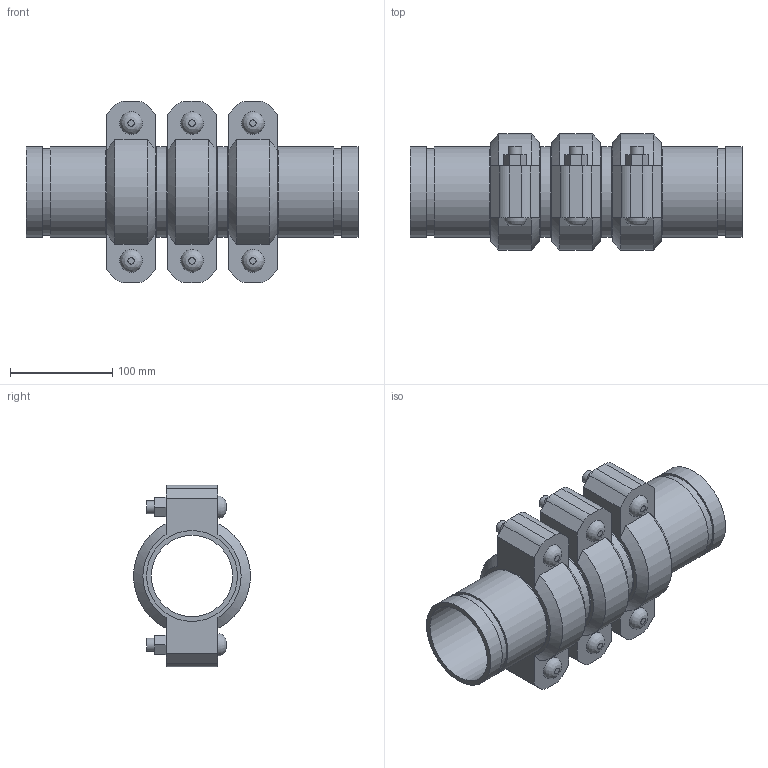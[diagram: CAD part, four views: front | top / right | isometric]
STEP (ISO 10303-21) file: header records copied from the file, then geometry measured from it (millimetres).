
FILE_DESCRIPTION(/* description */ ('VIC SS EXPANSION JOINT 3 COUPLINGS NEUTRAL STYLE 155P (OGS) (POTABLE WATER) ','CAx-IF Rec.Pracs.---Representation and Presentation of Product Manufacturing Information (PMI)---4.0---2014-10-13'),/* implementation_level */ '2;1');
FILE_NAME(/* name */ 'C:\Users\kkamble\AppData\Roaming\Autodesk\ApplicationPlugins\Victaulic.Temp\A227\Victaulic_SS_Expansion Joint_Neutral_3 Couplings_Style 155P (OGS)-Potable Water_3 Coup_Neut_3 (80).stp',/* time_stamp */ '2021-07-16T16:32:15+05:00',/* author */ ('kkamble'),/* organization */ ('Victaulic'),/* preprocessor_version */ 'ST-DEVELOPER v17.2',/* originating_system */ 'Autodesk Inventor 2019',/* authorisation */ '');
FILE_SCHEMA (('AP242_MANAGED_MODEL_BASED_3D_ENGINEERING_MIM_LF { 1 0 10303 442 1 1 4 }'));
Length unit declared in the file: inch
Products named in the file (4): 155P-03.0; Nipple-03.0; Nipple-03.0_1; 075-03.0
Assembly tree (7 placements, depth 2):
  155P-03.0
    Nipple-03.0  x2
    Nipple-03.0_1  x2
    075-03.0  x3
Bounding box: 324.61 x 113.88 x 177.8 mm (x, y, z)
Volume: 1366863.8 mm3; surface area: 368846 mm2
Topology: 7 solids, 13 shells, 219 faces, 519 edges, 366 vertices
Faces by surface type: plane 132, cylinder 69, cone 12, bspline 6
Full cylindrical faces by diameter (mm): 12.7 x12, 14.605 x6, 79.35 x4, 82.55 x3, 84.938 x8, 88.9 x18
Entity records: 2769 total; most frequent: CARTESIAN_POINT 491, DIRECTION 457, ORIENTED_EDGE 386, EDGE_CURVE 193, AXIS2_PLACEMENT_3D 182, VERTEX_POINT 138, EDGE_LOOP 107, LINE 93
